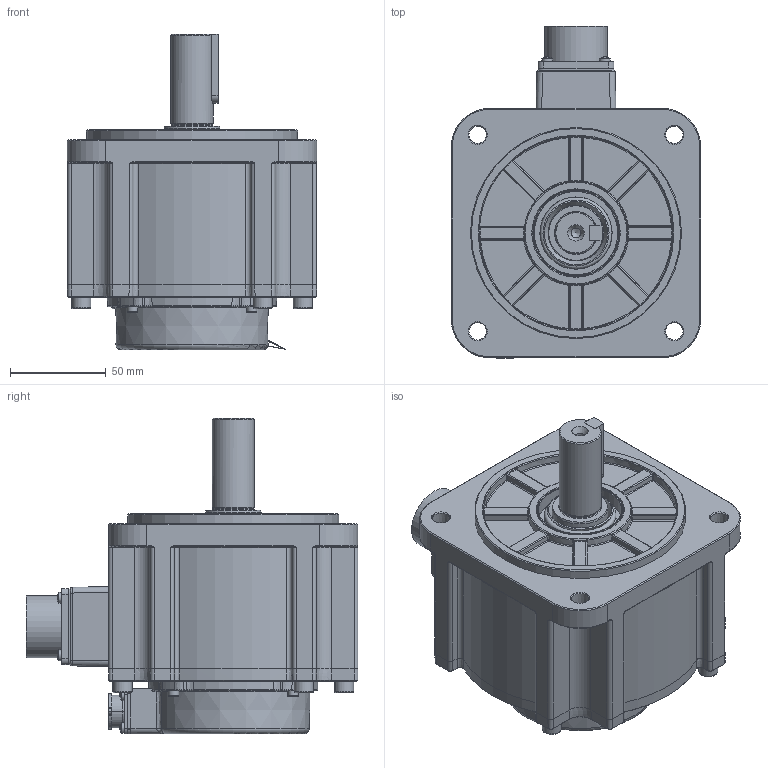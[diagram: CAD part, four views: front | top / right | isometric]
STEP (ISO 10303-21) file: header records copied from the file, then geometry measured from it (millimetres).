
FILE_DESCRIPTION (( 'STEP AP203' ), '1' );
FILE_NAME ('130µç»ú_DM2A-09A130I8S.STEP', '2025-04-08T06:58:08', ( 'MIDEA' ), ( 'MIDEA' ), 'SwSTEP 2.0', 'SolidWorks 2020', '' );
FILE_SCHEMA (( 'CONFIG_CONTROL_DESIGN' ));
Length unit declared in the file: millimetre
Products named in the file (29): 130隅赽傖こ_DZ09A130DM2A; 3026400-0029_动力连接器插座组件_DLQ15A130DM1S; 1030207-0243_130蟀諉ん價釱_LQZ15A130DM1S; 蛌赽郪璃_ZZ09A130DM2A; 1022500-0071_深沟球轴承_深沟球轴承-6204LUZCML448; 2010200-0231_十字槽盘头自挤螺钉-M3x8-镀锌镍合金（黑）（GB-T 6560）; 3020106-0048_130编码器成品_130编码器组件（130编码器组件（DM2黑色后罩壳 锐鹰端子式 出线17）; 2010100-0180_内六角圆柱头螺钉-M3x10-8.8级-镀锌镍合金+耐落(GB-T 70.1); 1022500-0070_深沟球轴承_深沟球轴承-6206ZZCML448; 2010200-0227_十字槽盘头螺钉-M3x30-8.8级-镀锌镍合金+耐落(GB-T818 2000); 2011200-0089_疏倛粟銅-孜62x孜51.69x2.36x0.61; 130珨极褲_YTK09A130DM2A; 1030207-0244_130蟀諉ん價釱躇猾菜_LQMF15A130DM1S; 1030204-0223_信号连接器公座-连接器插座23.4x23.4mm-插针10xΦ0.7-工作电流3A-耐压900V额定200V; 130綴傷裔_HDG13A130DM2A; 1022700-0046_130O型圈_OR15A130DM1S; 130珨极褲禱矗_YTK09A130DM2AM; 130綴傷裔禱矗_HDG13A130PH3SM; 2010100-0185_内六角圆柱头螺钉-M6x20-8.8级-镀锌镍合金+耐落(GB-T 70.1); 1022600-0017_蚐猾-TC30X45X8-NBR; 3021200-0021_130后罩壳（黑色）_HZK15A130DM1S-H; 1022700-0047_130躇猾菜_MFD15A130DM1S; 棠詩_CG09A130DM2A; 2010200-0186_十字盘头带垫螺丝-M3x4（镀白镍); 130萇儂_DM2A-09A130I8S; 1030204-0054_萇埭脣釱_YD28J4Z; 130粣_Z09A130DM2A; 2010500-0094_す瑩-B8x7x32-湍M3れ瑩蹟恇謂(GB-T 1096-2003); 1012100-0156_濮揤諉盄傷赽_RV2-3懦
Assembly tree (48 placements, depth 4):
  130萇儂_DM2A-09A130I8S
    130隅赽傖こ_DZ09A130DM2A
      1030207-0243_130蟀諉ん價釱_LQZ15A130DM1S
      2010200-0186_十字盘头带垫螺丝-M3x4（镀白镍)
      2010200-0227_十字槽盘头螺钉-M3x30-8.8级-镀锌镍合金+耐落(GB-T818 2000)  x4
      3026400-0029_动力连接器插座组件_DLQ15A130DM1S
        1030204-0054_萇埭脣釱_YD28J4Z
        1012100-0156_濮揤諉盄傷赽_RV2-3懦
      1030207-0244_130蟀諉ん價釱躇猾菜_LQMF15A130DM1S
      130珨极褲_YTK09A130DM2A
        130珨极褲禱矗_YTK09A130DM2AM
    130綴傷裔_HDG13A130DM2A
      130綴傷裔禱矗_HDG13A130PH3SM
    蛌赽郪璃_ZZ09A130DM2A
      130粣_Z09A130DM2A
      1022500-0070_深沟球轴承_深沟球轴承-6206ZZCML448
      1022500-0071_深沟球轴承_深沟球轴承-6204LUZCML448
      棠詩_CG09A130DM2A  x9
    2011200-0089_疏倛粟銅-孜62x孜51.69x2.36x0.61
    1022600-0017_蚐猾-TC30X45X8-NBR
    1022700-0046_130O型圈_OR15A130DM1S
    2010100-0185_内六角圆柱头螺钉-M6x20-8.8级-镀锌镍合金+耐落(GB-T 70.1)  x4
    2010100-0180_内六角圆柱头螺钉-M3x10-8.8级-镀锌镍合金+耐落(GB-T 70.1)  x4
    2010500-0094_す瑩-B8x7x32-湍M3れ瑩蹟恇謂(GB-T 1096-2003)
    3020106-0048_130编码器成品_130编码器组件（130编码器组件（DM2黑色后罩壳 锐鹰端子式 出线17）
      3021200-0021_130后罩壳（黑色）_HZK15A130DM1S-H
      1030204-0223_信号连接器公座-连接器插座23.4x23.4mm-插针10xΦ0.7-工作电流3A-耐压900V额定200V
      2010200-0231_十字槽盘头自挤螺钉-M3x8-镀锌镍合金（黑）（GB-T 6560）  x4
    1022700-0047_130躇猾菜_MFD15A130DM1S
Bounding box: 130 x 173 x 164.65 mm (x, y, z)
Volume: 694644.6 mm3; surface area: 296351.5 mm2
Topology: 51 solids, 51 shells, 5634 faces, 14746 edges, 9444 vertices
Faces by surface type: plane 2698, bspline 1523, cylinder 740, cone 310, torus 240, sphere 123
Full cylindrical faces by diameter (mm): 1.6 x6, 2.5 x20, 2.8 x4, 3 x17, 3.1 x1, 3.5 x14, 3.6 x4, 3.8 x4, 4 x1, 5 x5, 5.5 x5, 5.6 x8, 6 x6, 7 x1, 8 x2, 10 x4, 13.2 x1, 17.2 x1, 19.6 x1, 20 x2, 21 x1, 21.6 x1, 22 x1, 23 x1, 28 x3, 28.6 x1, 29 x5, 29.6 x2, 30 x3, 32.5 x1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
Entity records: 229681 total; most frequent: CARTESIAN_POINT 107096, ORIENTED_EDGE 27058, DIRECTION 19996, EDGE_CURVE 13529, VERTEX_POINT 8840, VECTOR 7886, LINE 7886, AXIS2_PLACEMENT_3D 6055
